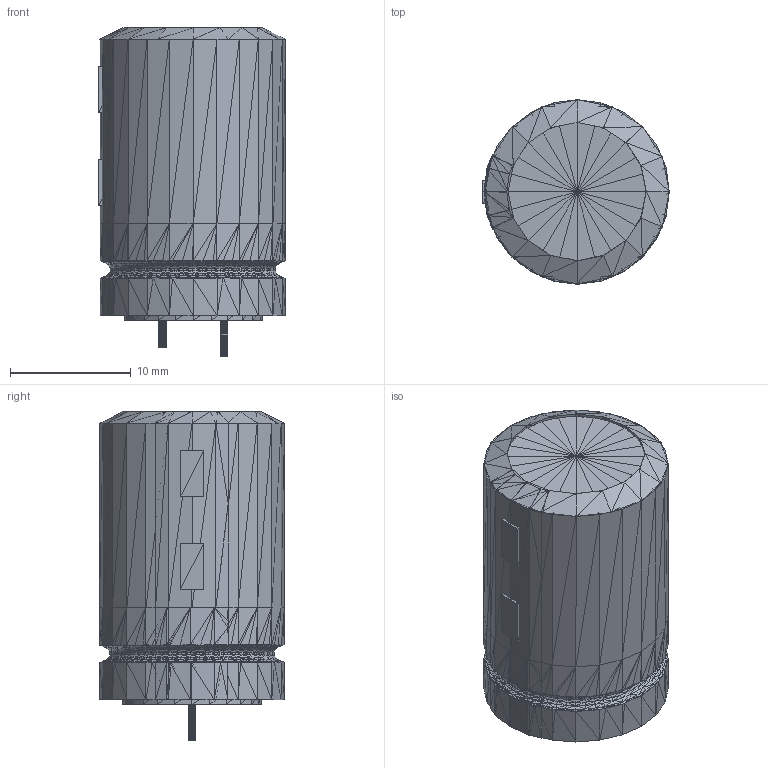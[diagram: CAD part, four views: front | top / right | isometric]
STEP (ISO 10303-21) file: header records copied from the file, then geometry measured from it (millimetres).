
FILE_DESCRIPTION(('HOOPS Exchange Step'),'2;1');
FILE_NAME('***.stp');
FILE_SCHEMA( ('AP242_MANAGED_MODEL_BASED_3D_ENGINEERING_MIM_LF {1 0 10303 442 1 1 4 }') );
Length unit declared in the file: inch
Products named in the file (12): RADPOLCAPXMDLG_2; RADPOLCAPXMDLG_3; RADPOLCAPXMDLG_4; RADPOLCAPXMDLG_5; RADPOLCAPXMDLG_6; RADPOLCAPXMDLG_7; RADPOLCAPXMDLG_8; RADPOLCAPXMDLG_9; RADPOLCAPXMDLG_10; RADPOLCAPXMDLG_11; RADPOLCAPXMDLG_12; RADPOLCAPXMDLG
Assembly tree (11 placements, depth 2):
  RADPOLCAPXMDLG
    RADPOLCAPXMDLG_2
    RADPOLCAPXMDLG_3
    RADPOLCAPXMDLG_4
    RADPOLCAPXMDLG_5
    RADPOLCAPXMDLG_6
    RADPOLCAPXMDLG_7
    RADPOLCAPXMDLG_8
    RADPOLCAPXMDLG_9
    RADPOLCAPXMDLG_10
    RADPOLCAPXMDLG_11
    RADPOLCAPXMDLG_12
Bounding box: 15.43 x 15.24 x 27.18 mm (x, y, z)
Surface area: 5873.6 mm2
Topology: 6 solids, 4443 shells, 4458 faces, 4070 edges, 2025 vertices
Faces by surface type: plane 4458
Entity records: 74929 total; most frequent: ORIENTED_EDGE 13374, DIRECTION 13034, CARTESIAN_POINT 10577, AXIS2_PLACEMENT_3D 4482, PLANE 4458, EDGE_LOOP 4458, FACE_BOUND 4458, ADVANCED_FACE 4458
